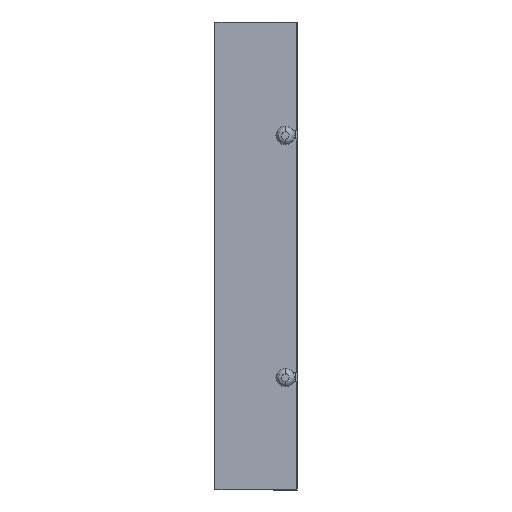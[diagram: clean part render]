
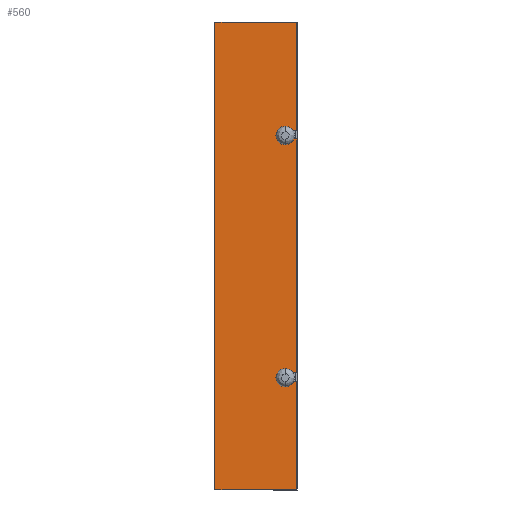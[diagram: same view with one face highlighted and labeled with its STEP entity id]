
A CAD part, left-side view. The second image highlights one B-rep face of the part: STEP entity #560.
In plain terms, the highlighted planar face has unit normal (-1, 0, 0) as drawn and (0, -1, 0) by its records, which use the part's own axes.
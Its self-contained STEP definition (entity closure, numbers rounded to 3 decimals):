
#4 = CARTESIAN_POINT ( 'NONE',  ( 0., 0., 200. ) ) ;
#8 = VERTEX_POINT ( 'NONE', #28 ) ;
#28 = CARTESIAN_POINT ( 'NONE',  ( 5., 0., 150. ) ) ;
#45 = CARTESIAN_POINT ( 'NONE',  ( 35., 0., 200. ) ) ;
#116 = LINE ( 'NONE', #1321, #3552 ) ;
#130 = EDGE_CURVE ( 'NONE', #1842, #3195, #370, .T. ) ;
#133 = VECTOR ( 'NONE', #2244, 1000. ) ;
#138 = DIRECTION ( 'NONE',  ( 0., -1., 0. ) ) ;
#152 = DIRECTION ( 'NONE',  ( 0., 0., 1. ) ) ;
#228 = AXIS2_PLACEMENT_3D ( 'NONE', #4139, #549, #3680 ) ;
#241 = ORIENTED_EDGE ( 'NONE', *, *, #5734, .F. ) ;
#243 = EDGE_CURVE ( 'NONE', #582, #3878, #5447, .T. ) ;
#264 = VERTEX_POINT ( 'NONE', #4642 ) ;
#276 = CARTESIAN_POINT ( 'NONE',  ( 6.5, 0., 151.5 ) ) ;
#279 = VERTEX_POINT ( 'NONE', #276 ) ;
#370 = LINE ( 'NONE', #980, #3589 ) ;
#421 = AXIS2_PLACEMENT_3D ( 'NONE', #3384, #1158, #679 ) ;
#549 = DIRECTION ( 'NONE',  ( 0., -1., 0. ) ) ;
#560 = ADVANCED_FACE ( 'NONE', ( #564 ), #2147, .F. ) ;
#564 = FACE_OUTER_BOUND ( 'NONE', #5413, .T. ) ;
#582 = VERTEX_POINT ( 'NONE', #4745 ) ;
#594 = LINE ( 'NONE', #4, #2076 ) ;
#598 = ORIENTED_EDGE ( 'NONE', *, *, #3440, .T. ) ;
#602 = EDGE_CURVE ( 'NONE', #1842, #964, #5167, .T. ) ;
#627 = VERTEX_POINT ( 'NONE', #1271 ) ;
#667 = VERTEX_POINT ( 'NONE', #5285 ) ;
#679 = DIRECTION ( 'NONE',  ( 0., 0., -1. ) ) ;
#788 = CARTESIAN_POINT ( 'NONE',  ( 0., 0., 200. ) ) ;
#800 = LINE ( 'NONE', #4429, #4363 ) ;
#964 = VERTEX_POINT ( 'NONE', #2731 ) ;
#980 = CARTESIAN_POINT ( 'NONE',  ( 0., 0., 0. ) ) ;
#1004 = ORIENTED_EDGE ( 'NONE', *, *, #5493, .T. ) ;
#1074 = DIRECTION ( 'NONE',  ( 1., 0., 0. ) ) ;
#1158 = DIRECTION ( 'NONE',  ( 0., -1., 0. ) ) ;
#1161 = VERTEX_POINT ( 'NONE', #3337 ) ;
#1168 = VECTOR ( 'NONE', #1074, 1000. ) ;
#1228 = ORIENTED_EDGE ( 'NONE', *, *, #1899, .F. ) ;
#1271 = CARTESIAN_POINT ( 'NONE',  ( 0., 0., 150. ) ) ;
#1321 = CARTESIAN_POINT ( 'NONE',  ( 0., 0., 50. ) ) ;
#1345 = DIRECTION ( 'NONE',  ( 0., 0., -1. ) ) ;
#1379 = VECTOR ( 'NONE', #5211, 1000. ) ;
#1567 = ORIENTED_EDGE ( 'NONE', *, *, #2265, .F. ) ;
#1587 = DIRECTION ( 'NONE',  ( -1., 0., 0. ) ) ;
#1730 = CIRCLE ( 'NONE', #421, 1.5 ) ;
#1735 = LINE ( 'NONE', #2845, #5474 ) ;
#1780 = VERTEX_POINT ( 'NONE', #45 ) ;
#1804 = LINE ( 'NONE', #4743, #1379 ) ;
#1820 = DIRECTION ( 'NONE',  ( 0., 0., 1. ) ) ;
#1828 = EDGE_CURVE ( 'NONE', #667, #264, #5496, .T. ) ;
#1842 = VERTEX_POINT ( 'NONE', #4082 ) ;
#1899 = EDGE_CURVE ( 'NONE', #1161, #2968, #1948, .T. ) ;
#1907 = ORIENTED_EDGE ( 'NONE', *, *, #3731, .F. ) ;
#1919 = ORIENTED_EDGE ( 'NONE', *, *, #130, .T. ) ;
#1944 = VERTEX_POINT ( 'NONE', #3718 ) ;
#1948 = CIRCLE ( 'NONE', #2288, 1.5 ) ;
#1971 = DIRECTION ( 'NONE',  ( 0., 0., -1. ) ) ;
#2009 = EDGE_CURVE ( 'NONE', #2968, #582, #2022, .T. ) ;
#2022 = LINE ( 'NONE', #5141, #5000 ) ;
#2076 = VECTOR ( 'NONE', #1820, 1000. ) ;
#2142 = VECTOR ( 'NONE', #1345, 1000. ) ;
#2147 = PLANE ( 'NONE',  #4578 ) ;
#2244 = DIRECTION ( 'NONE',  ( 1., 0., 0. ) ) ;
#2265 = EDGE_CURVE ( 'NONE', #3878, #1780, #2517, .T. ) ;
#2269 = ORIENTED_EDGE ( 'NONE', *, *, #2009, .F. ) ;
#2288 = AXIS2_PLACEMENT_3D ( 'NONE', #2401, #138, #5074 ) ;
#2383 = CARTESIAN_POINT ( 'NONE',  ( 0., 0., 200. ) ) ;
#2401 = CARTESIAN_POINT ( 'NONE',  ( 5., 0., 152. ) ) ;
#2517 = LINE ( 'NONE', #4034, #133 ) ;
#2520 = CARTESIAN_POINT ( 'NONE',  ( 5., 0., 50. ) ) ;
#2582 = DIRECTION ( 'NONE',  ( 0., 0., 1. ) ) ;
#2731 = CARTESIAN_POINT ( 'NONE',  ( 0., 0., 46.5 ) ) ;
#2807 = CARTESIAN_POINT ( 'NONE',  ( 0., 0., 200. ) ) ;
#2845 = CARTESIAN_POINT ( 'NONE',  ( 0., 0., 46.5 ) ) ;
#2849 = ORIENTED_EDGE ( 'NONE', *, *, #3854, .F. ) ;
#2886 = CARTESIAN_POINT ( 'NONE',  ( 0., 0., 150. ) ) ;
#2968 = VERTEX_POINT ( 'NONE', #3719 ) ;
#3022 = EDGE_CURVE ( 'NONE', #8, #279, #4924, .T. ) ;
#3079 = ORIENTED_EDGE ( 'NONE', *, *, #3022, .F. ) ;
#3195 = VERTEX_POINT ( 'NONE', #5116 ) ;
#3218 = AXIS2_PLACEMENT_3D ( 'NONE', #3661, #5036, #1971 ) ;
#3236 = DIRECTION ( 'NONE',  ( -1., 0., 0. ) ) ;
#3337 = CARTESIAN_POINT ( 'NONE',  ( 6.5, 0., 152. ) ) ;
#3384 = CARTESIAN_POINT ( 'NONE',  ( 5., 0., 48.5 ) ) ;
#3440 = EDGE_CURVE ( 'NONE', #3195, #1780, #1804, .T. ) ;
#3552 = VECTOR ( 'NONE', #3236, 1000. ) ;
#3589 = VECTOR ( 'NONE', #3696, 1000. ) ;
#3661 = CARTESIAN_POINT ( 'NONE',  ( 5., 0., 48. ) ) ;
#3680 = DIRECTION ( 'NONE',  ( 0., 0., -1. ) ) ;
#3696 = DIRECTION ( 'NONE',  ( 1., 0., 0. ) ) ;
#3718 = CARTESIAN_POINT ( 'NONE',  ( 6.5, 0., 48.5 ) ) ;
#3719 = CARTESIAN_POINT ( 'NONE',  ( 5., 0., 153.5 ) ) ;
#3731 = EDGE_CURVE ( 'NONE', #5412, #627, #594, .T. ) ;
#3829 = ORIENTED_EDGE ( 'NONE', *, *, #4024, .T. ) ;
#3854 = EDGE_CURVE ( 'NONE', #964, #667, #1735, .T. ) ;
#3878 = VERTEX_POINT ( 'NONE', #2807 ) ;
#3921 = ORIENTED_EDGE ( 'NONE', *, *, #1828, .F. ) ;
#3928 = DIRECTION ( 'NONE',  ( 0., 0., 1. ) ) ;
#4012 = CARTESIAN_POINT ( 'NONE',  ( 6.5, 0., 152. ) ) ;
#4024 = EDGE_CURVE ( 'NONE', #1161, #279, #4382, .T. ) ;
#4034 = CARTESIAN_POINT ( 'NONE',  ( 0., 0., 200. ) ) ;
#4042 = ORIENTED_EDGE ( 'NONE', *, *, #602, .F. ) ;
#4082 = CARTESIAN_POINT ( 'NONE',  ( 0., 0., 0. ) ) ;
#4132 = EDGE_CURVE ( 'NONE', #1944, #5031, #1730, .T. ) ;
#4139 = CARTESIAN_POINT ( 'NONE',  ( 5., 0., 151.5 ) ) ;
#4148 = DIRECTION ( 'NONE',  ( 1., 0., 0. ) ) ;
#4224 = ORIENTED_EDGE ( 'NONE', *, *, #243, .F. ) ;
#4301 = ORIENTED_EDGE ( 'NONE', *, *, #4132, .F. ) ;
#4363 = VECTOR ( 'NONE', #4860, 1000. ) ;
#4382 = LINE ( 'NONE', #4012, #2142 ) ;
#4429 = CARTESIAN_POINT ( 'NONE',  ( 6.5, 0., 48.5 ) ) ;
#4578 = AXIS2_PLACEMENT_3D ( 'NONE', #5652, #5251, #2582 ) ;
#4598 = EDGE_CURVE ( 'NONE', #5031, #5412, #116, .T. ) ;
#4642 = CARTESIAN_POINT ( 'NONE',  ( 6.5, 0., 48. ) ) ;
#4677 = VECTOR ( 'NONE', #3928, 1000. ) ;
#4743 = CARTESIAN_POINT ( 'NONE',  ( 35., 0., 200. ) ) ;
#4745 = CARTESIAN_POINT ( 'NONE',  ( 0., 0., 153.5 ) ) ;
#4860 = DIRECTION ( 'NONE',  ( 0., 0., -1. ) ) ;
#4924 = CIRCLE ( 'NONE', #228, 1.5 ) ;
#5000 = VECTOR ( 'NONE', #1587, 1000. ) ;
#5031 = VERTEX_POINT ( 'NONE', #2520 ) ;
#5036 = DIRECTION ( 'NONE',  ( 0., -1., 0. ) ) ;
#5074 = DIRECTION ( 'NONE',  ( 0., 0., -1. ) ) ;
#5116 = CARTESIAN_POINT ( 'NONE',  ( 35., 0., 0. ) ) ;
#5141 = CARTESIAN_POINT ( 'NONE',  ( 0., 0., 153.5 ) ) ;
#5167 = LINE ( 'NONE', #788, #4677 ) ;
#5211 = DIRECTION ( 'NONE',  ( 0., 0., 1. ) ) ;
#5251 = DIRECTION ( 'NONE',  ( 0., 1., 0. ) ) ;
#5285 = CARTESIAN_POINT ( 'NONE',  ( 5., 0., 46.5 ) ) ;
#5373 = CARTESIAN_POINT ( 'NONE',  ( 0., 0., 50. ) ) ;
#5412 = VERTEX_POINT ( 'NONE', #5373 ) ;
#5413 = EDGE_LOOP ( 'NONE', ( #2269, #1228, #3829, #3079, #241, #1907, #5695, #4301, #1004, #3921, #2849, #4042, #1919, #598, #1567, #4224 ) ) ;
#5447 = LINE ( 'NONE', #2383, #5596 ) ;
#5474 = VECTOR ( 'NONE', #4148, 1000. ) ;
#5493 = EDGE_CURVE ( 'NONE', #1944, #264, #800, .T. ) ;
#5496 = CIRCLE ( 'NONE', #3218, 1.5 ) ;
#5596 = VECTOR ( 'NONE', #152, 1000. ) ;
#5621 = LINE ( 'NONE', #2886, #1168 ) ;
#5652 = CARTESIAN_POINT ( 'NONE',  ( 0., 0., 200. ) ) ;
#5695 = ORIENTED_EDGE ( 'NONE', *, *, #4598, .F. ) ;
#5734 = EDGE_CURVE ( 'NONE', #627, #8, #5621, .T. ) ;
